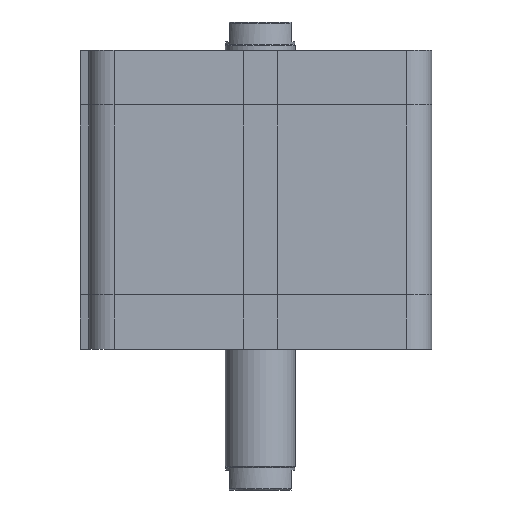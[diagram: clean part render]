
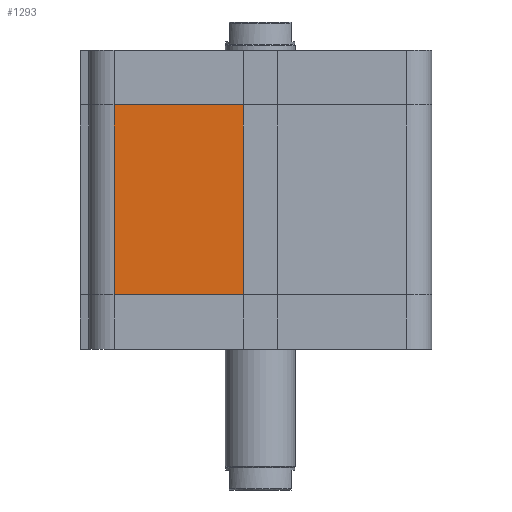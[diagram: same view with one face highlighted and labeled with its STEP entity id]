
A CAD part, left-side view. The second image highlights one B-rep face of the part: STEP entity #1293.
In plain terms, the highlighted planar face has unit normal (-1, 0, 0).
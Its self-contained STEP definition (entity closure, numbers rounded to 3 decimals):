
#1204=CARTESIAN_POINT('',(-61.0,52.,19.5));
#1205=VERTEX_POINT('',#1204);
#1213=CARTESIAN_POINT('',(-61.0,52.,87.0));
#1214=VERTEX_POINT('',#1213);
#1215=CARTESIAN_POINT('',(-61.0,52.,19.5));
#1216=DIRECTION('',(0.0,0.0,1.0));
#1217=VECTOR('',#1216,67.5);
#1218=LINE('',#1215,#1217);
#1219=EDGE_CURVE('',#1205,#1214,#1218,.T.);
#1263=CARTESIAN_POINT('',(-61.,6.,0.0));
#1264=DIRECTION('',(-1.0,0.0,0.0));
#1265=DIRECTION('',(0.0,0.0,1.0));
#1266=AXIS2_PLACEMENT_3D('',#1263,#1264,#1265);
#1267=PLANE('',#1266);
#1268=CARTESIAN_POINT('',(-61.,6.,19.5));
#1269=VERTEX_POINT('',#1268);
#1270=CARTESIAN_POINT('',(-61.0,52.,19.5));
#1271=DIRECTION('',(0.0,-1.0,0.0));
#1272=VECTOR('',#1271,46.);
#1273=LINE('',#1270,#1272);
#1274=EDGE_CURVE('',#1205,#1269,#1273,.T.);
#1275=ORIENTED_EDGE('',*,*,#1274,.T.);
#1276=CARTESIAN_POINT('',(-61.,6.,87.0));
#1277=VERTEX_POINT('',#1276);
#1278=CARTESIAN_POINT('',(-61.,6.,19.5));
#1279=DIRECTION('',(0.0,0.0,1.0));
#1280=VECTOR('',#1279,67.5);
#1281=LINE('',#1278,#1280);
#1282=EDGE_CURVE('',#1269,#1277,#1281,.T.);
#1283=ORIENTED_EDGE('',*,*,#1282,.T.);
#1284=CARTESIAN_POINT('',(-61.0,52.,87.0));
#1285=DIRECTION('',(0.0,-1.0,0.0));
#1286=VECTOR('',#1285,46.);
#1287=LINE('',#1284,#1286);
#1288=EDGE_CURVE('',#1214,#1277,#1287,.T.);
#1289=ORIENTED_EDGE('',*,*,#1288,.F.);
#1290=ORIENTED_EDGE('',*,*,#1219,.F.);
#1291=EDGE_LOOP('',(#1275,#1283,#1289,#1290));
#1292=FACE_OUTER_BOUND('',#1291,.T.);
#1293=ADVANCED_FACE('',(#1292),#1267,.T.);
